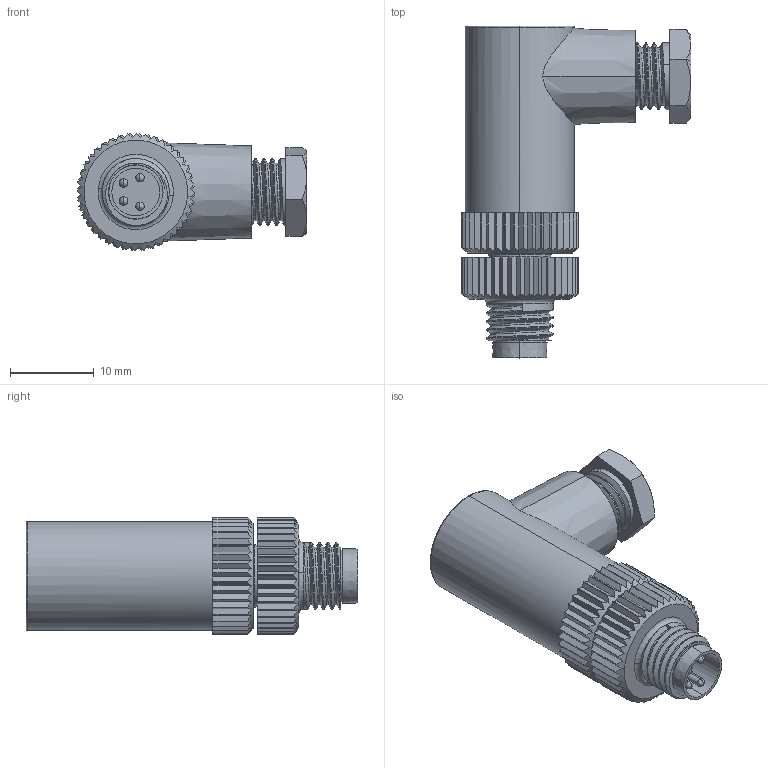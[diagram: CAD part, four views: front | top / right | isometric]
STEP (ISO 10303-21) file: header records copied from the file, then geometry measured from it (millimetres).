
FILE_DESCRIPTION (( 'STEP AP203' ), '1' );
FILE_NAME ('63F123.STEP', '2023-06-24T02:18:59', ( '' ), ( '' ), 'SwSTEP 2.0', 'SolidWorks 2016', '' );
FILE_SCHEMA (( 'CONFIG_CONTROL_DESIGN' ));
Length unit declared in the file: millimetre
Products named in the file (1): 63F123
Bounding box: 27.42 x 39.6 x 14 mm (x, y, z)
Volume: 5521.1 mm3; surface area: 3548.3 mm2
Topology: 1 solids, 7 shells, 431 faces, 1134 edges, 715 vertices
Faces by surface type: plane 225, cylinder 145, cone 30, bspline 19, sphere 8, torus 4
Entity records: 38185 total; most frequent: CARTESIAN_POINT 27880, ORIENTED_EDGE 2234, DIRECTION 2046, EDGE_CURVE 1117, AXIS2_PLACEMENT_3D 765, VERTEX_POINT 707, LINE 516, VECTOR 516
